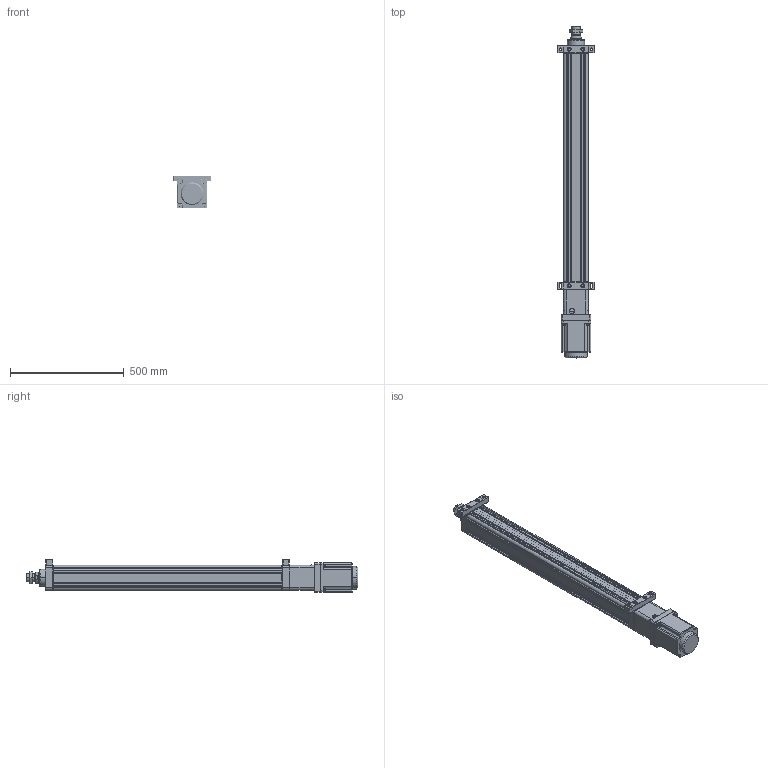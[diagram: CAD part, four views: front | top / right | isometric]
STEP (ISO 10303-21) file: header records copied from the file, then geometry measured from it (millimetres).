
FILE_DESCRIPTION((''),'2;1');
FILE_NAME('HE100-D-P_ASM','2020-05-06T',('ASUS20200'),(''),'CREO PARAMETRIC BY PTC INC, 2014190','CREO PARAMETRIC BY PTC INC, 2014190','');
FILE_SCHEMA(('CONFIG_CONTROL_DESIGN'));
Products named in the file (40): HE100-D-P-001-X1; HE100-D-P-002-X1; HE100-D-P-003-X1; 30305J; SFNHR03205B1-001-X1; SFNHR03205B1-002-X1; SFNHR03205B1-ST_ASM; HE100-D-P-004-X1; HE100-D-P-006-X1; HE100-D-P-007-X2; HE100-D-P-007-X1-2; M3X8-PB; HE100-D-P-HST_ASM; HE100-D-P-005-X1; TD-8; M8X30; LGLM-M10-25; K-M25X1-5P-36; JX6X6X30; JDB506030; HE80-D-P-008-X1; SLM-01; YZ-M6X1; HE100-GT2535-17; HE100-100-D-P-X1_ASM; HE100-D-009-X1; GFC-55-78-16K5; GFC-55-78-LJT; GFC-55-78-22K6; GFC-55-78-16K5-22K6_ASM; HE100-D-010-X1-130N; M8X20; 130ST-M10010; M8X40; SKT-20; HE100-P-015-X1; HE100-D-016-X1; TD-10; M10X35; HE100-D-P_ASM
Assembly tree (78 placements, depth 4):
  HE100-D-P_ASM
    HE100-100-D-P-X1_ASM
      HE100-D-P-001-X1
      HE100-D-P-002-X1
      HE100-D-P-003-X1
      30305J  x2
      SFNHR03205B1-ST_ASM
        SFNHR03205B1-001-X1
        SFNHR03205B1-002-X1
      HE100-D-P-HST_ASM
        HE100-D-P-004-X1
        HE100-D-P-006-X1
        HE100-D-P-007-X2
        HE100-D-P-007-X1-2
        M3X8-PB  x5
      HE100-D-P-005-X1
      TD-8  x6
      M8X30  x6
      LGLM-M10-25  x8
      K-M25X1-5P-36
      JX6X6X30
      JDB506030
      HE80-D-P-008-X1
      SLM-01
      YZ-M6X1
      HE100-GT2535-17
    HE100-D-009-X1
    GFC-55-78-16K5-22K6_ASM
      GFC-55-78-16K5
      GFC-55-78-LJT
      GFC-55-78-22K6
    HE100-D-010-X1-130N
    M8X20  x4
    130ST-M10010
    TD-8  x4
    M8X40  x4
    SKT-20  x2
    HE100-P-015-X1
    HE100-D-016-X1
    TD-10  x4
    M10X35  x4
Bounding box: 165 x 1461 x 145 mm (x, y, z)
Volume: 9636689 mm3; surface area: 2293857.3 mm2
Topology: 74 solids, 125 shells, 3591 faces, 8412 edges, 5070 vertices
Faces by surface type: plane 1207, cylinder 1099, cone 886, torus 262, sphere 90, bspline 47
Entity records: 89103 total; most frequent: CARTESIAN_POINT 24137, DIRECTION 14206, ORIENTED_EDGE 12648, EDGE_CURVE 6416, AXIS2_PLACEMENT_3D 5515, VERTEX_POINT 3876, VECTOR 3176, LINE 3176
